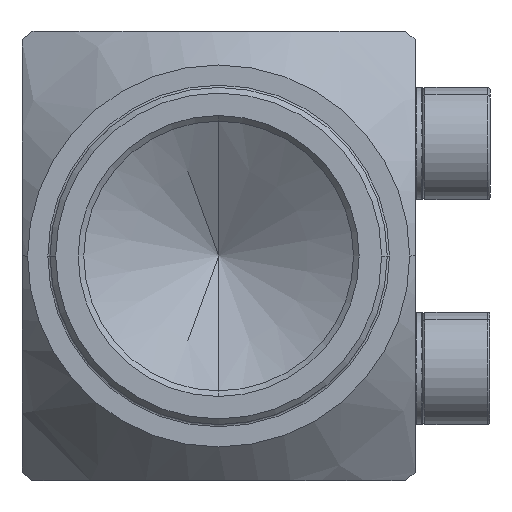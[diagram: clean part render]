
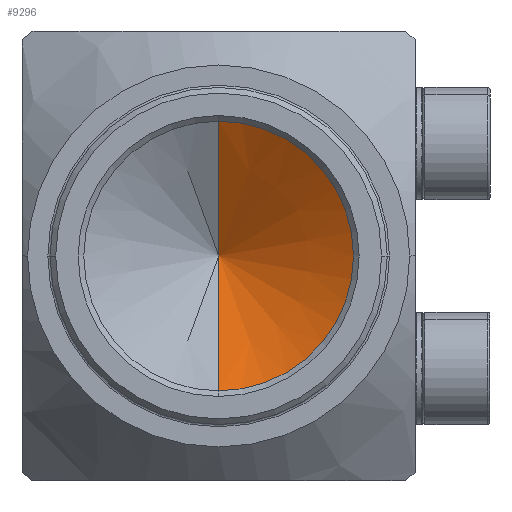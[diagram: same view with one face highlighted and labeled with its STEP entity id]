
A CAD part, front view. The second image highlights one B-rep face of the part: STEP entity #9296.
In plain terms, the highlighted conical face has half-angle 59 degrees and reference radius 12 mm.
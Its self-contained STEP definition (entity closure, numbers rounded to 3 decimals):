
#160 = DIRECTION ( 'NONE',  ( 0., 0., -1. ) ) ;
#620 = DIRECTION ( 'NONE',  ( 0., 0., -1. ) ) ;
#842 = DIRECTION ( 'NONE',  ( 0., -0.515, 0.857 ) ) ;
#1034 = AXIS2_PLACEMENT_3D ( 'NONE', #9303, #4953, #620 ) ;
#2318 = CARTESIAN_POINT ( 'NONE',  ( 0., 133., 0. ) ) ;
#2478 = VECTOR ( 'NONE', #842, 1000. ) ;
#2513 = FACE_OUTER_BOUND ( 'NONE', #6827, .T. ) ;
#2579 = ORIENTED_EDGE ( 'NONE', *, *, #5062, .T. ) ;
#3159 = LINE ( 'NONE', #7917, #7007 ) ;
#3172 = ORIENTED_EDGE ( 'NONE', *, *, #5186, .F. ) ;
#3203 = ORIENTED_EDGE ( 'NONE', *, *, #4969, .T. ) ;
#3351 = CARTESIAN_POINT ( 'NONE',  ( 0., 133., -12. ) ) ;
#3572 = DIRECTION ( 'NONE',  ( 0., -0.515, -0.857 ) ) ;
#3636 = CARTESIAN_POINT ( 'NONE',  ( 0., 133., 12. ) ) ;
#3670 = CARTESIAN_POINT ( 'NONE',  ( 0., 133., 12. ) ) ;
#4953 = DIRECTION ( 'NONE',  ( 0., -1., 0. ) ) ;
#4969 = EDGE_CURVE ( 'NONE', #9073, #5121, #5557, .T. ) ;
#5062 = EDGE_CURVE ( 'NONE', #8797, #9073, #3159, .T. ) ;
#5121 = VERTEX_POINT ( 'NONE', #3636 ) ;
#5186 = EDGE_CURVE ( 'NONE', #8797, #5121, #6341, .T. ) ;
#5557 = CIRCLE ( 'NONE', #1034, 12. ) ;
#5935 = CONICAL_SURFACE ( 'NONE', #5966, 12., 1.03 ) ;
#5966 = AXIS2_PLACEMENT_3D ( 'NONE', #2318, #7388, #160 ) ;
#6341 = LINE ( 'NONE', #3670, #2478 ) ;
#6827 = EDGE_LOOP ( 'NONE', ( #3172, #2579, #3203 ) ) ;
#7007 = VECTOR ( 'NONE', #3572, 1000. ) ;
#7378 = CARTESIAN_POINT ( 'NONE',  ( 0., 140.21, 0. ) ) ;
#7388 = DIRECTION ( 'NONE',  ( 0., -1., 0. ) ) ;
#7917 = CARTESIAN_POINT ( 'NONE',  ( 0., 133., -12. ) ) ;
#8797 = VERTEX_POINT ( 'NONE', #7378 ) ;
#9073 = VERTEX_POINT ( 'NONE', #3351 ) ;
#9296 = ADVANCED_FACE ( 'NONE', ( #2513 ), #5935, .F. ) ;
#9303 = CARTESIAN_POINT ( 'NONE',  ( 0., 133., 0. ) ) ;
